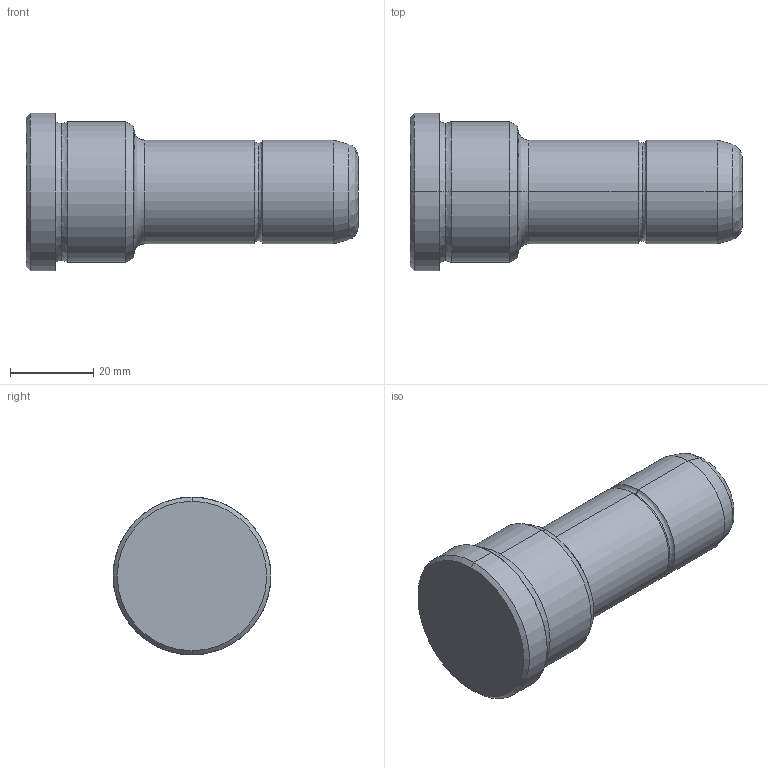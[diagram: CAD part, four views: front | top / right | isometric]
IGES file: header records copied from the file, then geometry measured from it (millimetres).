
Start section: START RECORD GO HERE.
Global section: file name: 351-25X26X80.igs; native system: DASSAULT SYSTEMES CATIA V5 R20 - www.3ds.com; preprocessor: CATIA Version 5 Release 20 ; author: Utente; organization: NB04-ASUS; date: 20210828.112342; units: millimetre
Bounding box: 80 x 38 x 38 mm (x, y, z)
Surface area: 9013.3 mm2 (no closed solid volume)
Topology: 0 solids, 0 shells, 30 faces, 172 edges, 172 vertices
Faces by surface type: revolution 26, plane 4
